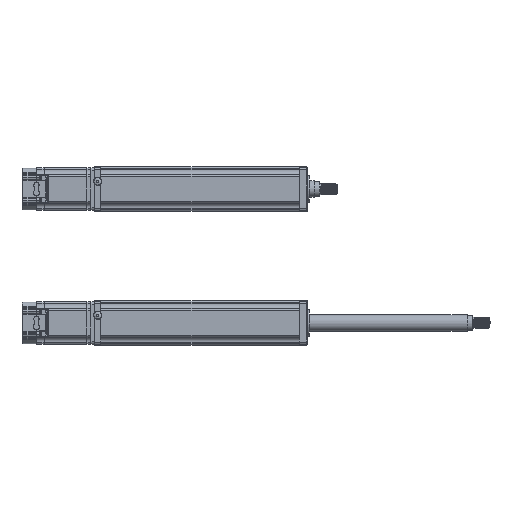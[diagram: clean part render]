
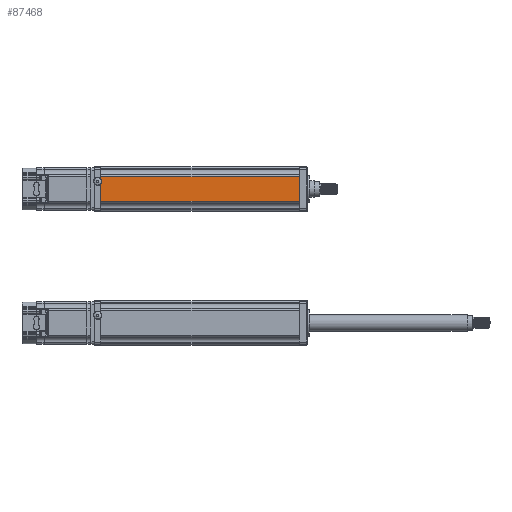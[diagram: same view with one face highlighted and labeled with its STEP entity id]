
A CAD part, top view. The second image highlights one B-rep face of the part: STEP entity #87468.
In plain terms, the highlighted planar face has unit normal (0, 0, 1).
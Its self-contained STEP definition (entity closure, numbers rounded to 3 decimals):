
#85521 = PLANE('',#85522);
#85522 = AXIS2_PLACEMENT_3D('',#85523,#85524,#85525);
#85523 = CARTESIAN_POINT('',(604.,195.885,145.431
    ));
#85524 = DIRECTION('',(-1.,0.,0.));
#85525 = DIRECTION('',(0.,-1.,0.));
#85582 = PLANE('',#85583);
#85583 = AXIS2_PLACEMENT_3D('',#85584,#85585,#85586);
#85584 = CARTESIAN_POINT('',(864.,195.885,145.431
    ));
#85585 = DIRECTION('',(-1.,0.,0.));
#85586 = DIRECTION('',(0.,-1.,0.));
#86191 = VERTEX_POINT('',#86192);
#86192 = CARTESIAN_POINT('',(864.,150.885,203.431)
  );
#86200 = CYLINDRICAL_SURFACE('',#86201,2.5);
#86201 = AXIS2_PLACEMENT_3D('',#86202,#86203,#86204);
#86202 = CARTESIAN_POINT('',(604.,150.885,200.931)
  );
#86203 = DIRECTION('',(-1.,0.,0.));
#86204 = DIRECTION('',(0.,0.,1.));
#86219 = EDGE_CURVE('',#86191,#86220,#86222,.T.);
#86220 = VERTEX_POINT('',#86221);
#86221 = CARTESIAN_POINT('',(604.,150.885,203.431)
  );
#86222 = SURFACE_CURVE('',#86223,(#86227,#86234),.PCURVE_S1.);
#86223 = LINE('',#86224,#86225);
#86224 = CARTESIAN_POINT('',(734.,150.885,203.431)
  );
#86225 = VECTOR('',#86226,1.);
#86226 = DIRECTION('',(-1.,0.,0.));
#86227 = PCURVE('',#86200,#86228);
#86228 = DEFINITIONAL_REPRESENTATION('',(#86229),#86233);
#86229 = LINE('',#86230,#86231);
#86230 = CARTESIAN_POINT('',(6.283,-130.));
#86231 = VECTOR('',#86232,1.);
#86232 = DIRECTION('',(0.,1.));
#86233 = ( GEOMETRIC_REPRESENTATION_CONTEXT(2) 
PARAMETRIC_REPRESENTATION_CONTEXT() REPRESENTATION_CONTEXT('2D SPACE',''
  ) );
#86234 = PCURVE('',#86235,#86240);
#86235 = PLANE('',#86236);
#86236 = AXIS2_PLACEMENT_3D('',#86237,#86238,#86239);
#86237 = CARTESIAN_POINT('',(604.,182.885,203.431)
  );
#86238 = DIRECTION('',(0.,0.,-1.));
#86239 = DIRECTION('',(1.,0.,0.));
#86240 = DEFINITIONAL_REPRESENTATION('',(#86241),#86245);
#86241 = LINE('',#86242,#86243);
#86242 = CARTESIAN_POINT('',(130.,32.));
#86243 = VECTOR('',#86244,1.);
#86244 = DIRECTION('',(-1.,0.));
#86245 = ( GEOMETRIC_REPRESENTATION_CONTEXT(2) 
PARAMETRIC_REPRESENTATION_CONTEXT() REPRESENTATION_CONTEXT('2D SPACE',''
  ) );
#86307 = VERTEX_POINT('',#86308);
#86308 = CARTESIAN_POINT('',(604.,182.885,203.431)
  );
#86316 = CYLINDRICAL_SURFACE('',#86317,2.5);
#86317 = AXIS2_PLACEMENT_3D('',#86318,#86319,#86320);
#86318 = CARTESIAN_POINT('',(864.,182.885,200.931)
  );
#86319 = DIRECTION('',(1.,0.,0.));
#86320 = DIRECTION('',(0.,0.,1.));
#86339 = EDGE_CURVE('',#86307,#86340,#86342,.T.);
#86340 = VERTEX_POINT('',#86341);
#86341 = CARTESIAN_POINT('',(864.,182.885,203.431)
  );
#86342 = SURFACE_CURVE('',#86343,(#86347,#86354),.PCURVE_S1.);
#86343 = LINE('',#86344,#86345);
#86344 = CARTESIAN_POINT('',(734.,182.885,203.431)
  );
#86345 = VECTOR('',#86346,1.);
#86346 = DIRECTION('',(1.,0.,0.));
#86347 = PCURVE('',#86316,#86348);
#86348 = DEFINITIONAL_REPRESENTATION('',(#86349),#86353);
#86349 = LINE('',#86350,#86351);
#86350 = CARTESIAN_POINT('',(6.283,-130.));
#86351 = VECTOR('',#86352,1.);
#86352 = DIRECTION('',(0.,1.));
#86353 = ( GEOMETRIC_REPRESENTATION_CONTEXT(2) 
PARAMETRIC_REPRESENTATION_CONTEXT() REPRESENTATION_CONTEXT('2D SPACE',''
  ) );
#86354 = PCURVE('',#86235,#86355);
#86355 = DEFINITIONAL_REPRESENTATION('',(#86356),#86360);
#86356 = LINE('',#86357,#86358);
#86357 = CARTESIAN_POINT('',(130.,0.));
#86358 = VECTOR('',#86359,1.);
#86359 = DIRECTION('',(1.,0.));
#86360 = ( GEOMETRIC_REPRESENTATION_CONTEXT(2) 
PARAMETRIC_REPRESENTATION_CONTEXT() REPRESENTATION_CONTEXT('2D SPACE',''
  ) );
#86767 = EDGE_CURVE('',#86340,#86191,#86768,.T.);
#86768 = SURFACE_CURVE('',#86769,(#86773,#86780),.PCURVE_S1.);
#86769 = LINE('',#86770,#86771);
#86770 = CARTESIAN_POINT('',(864.,166.885,203.431)
  );
#86771 = VECTOR('',#86772,1.);
#86772 = DIRECTION('',(0.,-1.,0.));
#86773 = PCURVE('',#85582,#86774);
#86774 = DEFINITIONAL_REPRESENTATION('',(#86775),#86779);
#86775 = LINE('',#86776,#86777);
#86776 = CARTESIAN_POINT('',(29.,58.));
#86777 = VECTOR('',#86778,1.);
#86778 = DIRECTION('',(1.,0.));
#86779 = ( GEOMETRIC_REPRESENTATION_CONTEXT(2) 
PARAMETRIC_REPRESENTATION_CONTEXT() REPRESENTATION_CONTEXT('2D SPACE',''
  ) );
#86780 = PCURVE('',#86235,#86781);
#86781 = DEFINITIONAL_REPRESENTATION('',(#86782),#86786);
#86782 = LINE('',#86783,#86784);
#86783 = CARTESIAN_POINT('',(260.,16.));
#86784 = VECTOR('',#86785,1.);
#86785 = DIRECTION('',(0.,1.));
#86786 = ( GEOMETRIC_REPRESENTATION_CONTEXT(2) 
PARAMETRIC_REPRESENTATION_CONTEXT() REPRESENTATION_CONTEXT('2D SPACE',''
  ) );
#87208 = EDGE_CURVE('',#86220,#86307,#87209,.T.);
#87209 = SURFACE_CURVE('',#87210,(#87214,#87221),.PCURVE_S1.);
#87210 = LINE('',#87211,#87212);
#87211 = CARTESIAN_POINT('',(604.,166.885,203.431)
  );
#87212 = VECTOR('',#87213,1.);
#87213 = DIRECTION('',(0.,1.,0.));
#87214 = PCURVE('',#85521,#87215);
#87215 = DEFINITIONAL_REPRESENTATION('',(#87216),#87220);
#87216 = LINE('',#87217,#87218);
#87217 = CARTESIAN_POINT('',(29.,58.));
#87218 = VECTOR('',#87219,1.);
#87219 = DIRECTION('',(-1.,0.));
#87220 = ( GEOMETRIC_REPRESENTATION_CONTEXT(2) 
PARAMETRIC_REPRESENTATION_CONTEXT() REPRESENTATION_CONTEXT('2D SPACE',''
  ) );
#87221 = PCURVE('',#86235,#87222);
#87222 = DEFINITIONAL_REPRESENTATION('',(#87223),#87227);
#87223 = LINE('',#87224,#87225);
#87224 = CARTESIAN_POINT('',(0.,16.));
#87225 = VECTOR('',#87226,1.);
#87226 = DIRECTION('',(0.,-1.));
#87227 = ( GEOMETRIC_REPRESENTATION_CONTEXT(2) 
PARAMETRIC_REPRESENTATION_CONTEXT() REPRESENTATION_CONTEXT('2D SPACE',''
  ) );
#87468 = ADVANCED_FACE('',(#87469),#86235,.F.);
#87469 = FACE_BOUND('',#87470,.T.);
#87470 = EDGE_LOOP('',(#87471,#87472,#87473,#87474));
#87471 = ORIENTED_EDGE('',*,*,#86219,.F.);
#87472 = ORIENTED_EDGE('',*,*,#86767,.F.);
#87473 = ORIENTED_EDGE('',*,*,#86339,.F.);
#87474 = ORIENTED_EDGE('',*,*,#87208,.F.);
